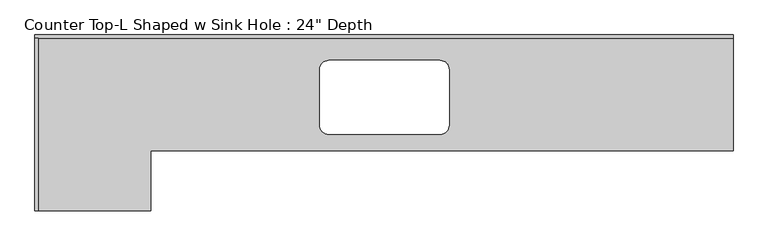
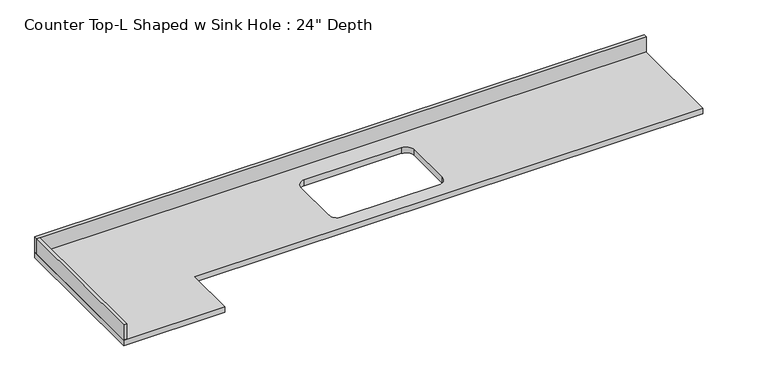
"""IFC4 building model written with IfcOpenShell, lengths in millimetres: furniture geometry."""

from ifc_helpers import new_model, si_unit, point, frame, frame_2d, origin, place, context, project, spatial, polyline, circle_curve, trimmed, segment, composite_curve, outline, extrude, source, transform, mapped, element, save


def furniture_23ed0d10(model_context):
    return source(origin(), model_context, "Body", "SweptSolid", [
        extrude(outline(polyline([(-1181.4122951, -19.05), (-1181.4122951, -964.5140458), (-1200.4622951, -964.5140458), (-1200.4622951, -19.05), (-1181.4122951, -19.05)])), frame((0.0, 0.0, 914.4), z_axis=(0.0, 0.0, 1.0), x_axis=(1.0, 0.0, 0.0)), (0.0, 0.0, 1.0), 101.6),
        extrude(outline(polyline([(-1200.4622951, 0.0), (2630.8106159, 0.0), (2630.8106159, -19.05), (-1200.4622951, -19.05), (-1200.4622951, 0.0)])), frame((0.0, 0.0, 914.4), z_axis=(0.0, 0.0, 1.0), x_axis=(1.0, 0.0, 0.0)), (0.0, 0.0, 1.0), 101.6),
        extrude(outline(polyline([(2630.8106159, 0.0), (2630.8106159, -635.0), (-565.4622951, -635.0), (-565.4622951, -964.5140458), (-1200.4622951, -964.5140458), (-1200.4622951, 0.0), (2630.8106159, 0.0)]), holes=[composite_curve([segment(polyline([(1022.0377049, -139.7), (412.4377049, -139.7)]), True, "CONTINUOUS"), segment(trimmed(circle_curve(frame_2d((412.4377049, -190.5)), 50.8), [point((412.4377049, -139.7))], [point((361.6377049, -190.5))], True, "CARTESIAN"), True, "CONTINUOUS"), segment(polyline([(361.6377049, -190.5), (361.6377049, -495.3)]), True, "CONTINUOUS"), segment(trimmed(circle_curve(frame_2d((412.4377049, -495.3)), 50.8), [point((361.6377049, -495.3))], [point((412.4377049, -546.1))], True, "CARTESIAN"), True, "CONTINUOUS"), segment(polyline([(412.4377049, -546.1), (1022.0377049, -546.1)]), True, "CONTINUOUS"), segment(trimmed(circle_curve(frame_2d((1022.0377049, -495.3)), 50.8), [point((1022.0377049, -546.1))], [point((1072.8377049, -495.3))], True, "CARTESIAN"), True, "CONTINUOUS"), segment(polyline([(1072.8377049, -495.3), (1072.8377049, -190.5)]), True, "CONTINUOUS"), segment(trimmed(circle_curve(frame_2d((1022.0377049, -190.5)), 50.8), [point((1072.8377049, -190.5))], [point((1022.0377049, -139.7))], True, "CARTESIAN"), True, "CONTINUOUS")], self_intersect=False)]), frame((0.0, 0.0, 876.3), z_axis=(0.0, 0.0, 1.0), x_axis=(1.0, 0.0, 0.0)), (0.0, 0.0, 1.0), 38.1),
    ])


if __name__ == "__main__":
    model = new_model("IFC4")
    model_context = context("Model", 3, world=origin())
    ifc_project = project(units=[si_unit("LENGTHUNIT", "METRE", prefix="MILLI")], contexts=[model_context])
    site = spatial("IfcSite", under=ifc_project)
    building = spatial("IfcBuilding", under=site)
    placement = place(None, origin())
    furniture_shape = furniture_23ed0d10(model_context)
    element("IfcFurniture", 1, ObjectType="Counter Top-L Shaped w Sink Hole : 24\" Depth", at=placement, inside=building, context=model_context, shape_type="MappedRepresentation", body=[
        mapped(furniture_shape, transform((0.0, 0.0, 0.0), x_axis=(1.0, 0.0, 0.0), y_axis=(0.0, 1.0, 0.0), z_axis=(0.0, 0.0, 1.0))),
    ])
    save(model, "model.ifc")
